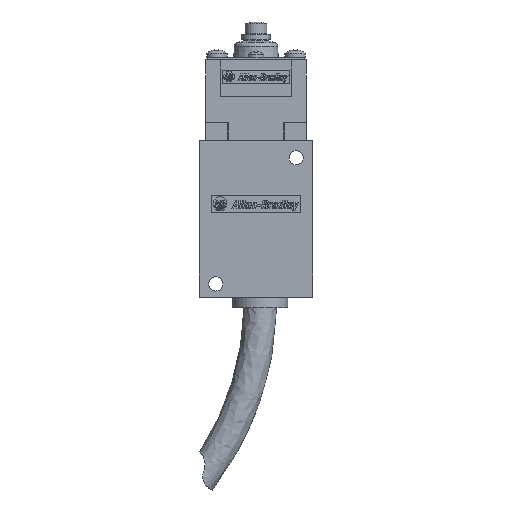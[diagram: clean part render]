
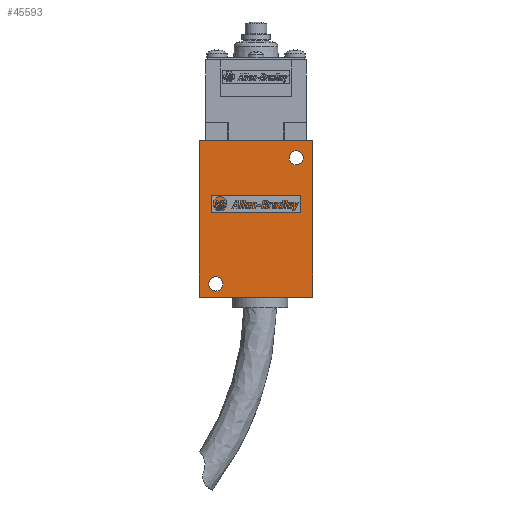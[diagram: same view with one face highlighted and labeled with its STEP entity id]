
A CAD part, front view. The second image highlights one B-rep face of the part: STEP entity #45593.
In plain terms, the highlighted planar face has unit normal (0, -1, 0).
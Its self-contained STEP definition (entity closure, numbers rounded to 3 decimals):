
#2262 = DIRECTION ( 'NONE',  ( -1., 0., 0. ) ) ;
#2263 = CARTESIAN_POINT ( 'NONE',  ( 20.638, -19.05, -57.175 ) ) ;
#2264 = LINE ( 'NONE', #2263, #2316 ) ;
#2314 = CARTESIAN_POINT ( 'NONE',  ( -20.637, -19.05, -57.175 ) ) ;
#2315 = CARTESIAN_POINT ( 'NONE',  ( 20.638, -19.05, -57.175 ) ) ;
#2316 = VECTOR ( 'NONE', #2262, 1000. ) ;
#2769 = CARTESIAN_POINT ( 'NONE',  ( 20.638, -19.05, 0. ) ) ;
#2770 = DIRECTION ( 'NONE',  ( 1., 0., 0. ) ) ;
#2771 = VECTOR ( 'NONE', #2770, 1000. ) ;
#2772 = CARTESIAN_POINT ( 'NONE',  ( 20.638, -19.05, 0. ) ) ;
#2773 = LINE ( 'NONE', #2772, #2771 ) ;
#2774 = CARTESIAN_POINT ( 'NONE',  ( -20.637, -19.05, 0. ) ) ;
#2775 = DIRECTION ( 'NONE',  ( 0., 0., 1. ) ) ;
#2776 = VECTOR ( 'NONE', #2775, 1000. ) ;
#2777 = CARTESIAN_POINT ( 'NONE',  ( -20.637, -19.05, 0. ) ) ;
#2778 = LINE ( 'NONE', #2777, #2776 ) ;
#2810 = DIRECTION ( 'NONE',  ( 0., 0., 1. ) ) ;
#2811 = DIRECTION ( 'NONE',  ( 0., 1., 0. ) ) ;
#2812 = CARTESIAN_POINT ( 'NONE',  ( 20.638, -19.05, 0. ) ) ;
#2813 = AXIS2_PLACEMENT_3D ( 'NONE', #2812, #2811, #2810 ) ;
#2814 = PLANE ( 'NONE',  #2813 ) ;
#2830 = FACE_BOUND ( 'NONE', #45641, .T. ) ;
#2831 = FACE_OUTER_BOUND ( 'NONE', #45636, .T. ) ;
#2832 = FACE_BOUND ( 'NONE', #45629, .T. ) ;
#2883 = DIRECTION ( 'NONE',  ( 0., 0., -1. ) ) ;
#2884 = VECTOR ( 'NONE', #2883, 1000. ) ;
#2885 = CARTESIAN_POINT ( 'NONE',  ( 20.638, -19.05, 0. ) ) ;
#2886 = LINE ( 'NONE', #2885, #2884 ) ;
#2915 = DIRECTION ( 'NONE',  ( 0., 0., -1. ) ) ;
#2916 = DIRECTION ( 'NONE',  ( 0., -1., 0. ) ) ;
#2917 = AXIS2_PLACEMENT_3D ( 'NONE', #2924, #2916, #2915 ) ;
#2918 = CIRCLE ( 'NONE', #2917, 2.578 ) ;
#2924 = CARTESIAN_POINT ( 'NONE',  ( -14.681, -19.05, -52.375 ) ) ;
#2981 = CARTESIAN_POINT ( 'NONE',  ( 14.681, -19.05, -6.35 ) ) ;
#3039 = DIRECTION ( 'NONE',  ( 0., 0., -1. ) ) ;
#3040 = DIRECTION ( 'NONE',  ( 0., -1., 0. ) ) ;
#3041 = AXIS2_PLACEMENT_3D ( 'NONE', #2981, #3040, #3039 ) ;
#3042 = CIRCLE ( 'NONE', #3041, 2.578 ) ;
#41952 = CARTESIAN_POINT ( 'NONE',  ( 14.681, -19.05, -3.772 ) ) ;
#41961 = CARTESIAN_POINT ( 'NONE',  ( 14.681, -19.05, -8.928 ) ) ;
#41962 = DIRECTION ( 'NONE',  ( 0., 0., -1. ) ) ;
#41963 = DIRECTION ( 'NONE',  ( 0., -1., 0. ) ) ;
#41964 = CARTESIAN_POINT ( 'NONE',  ( 14.681, -19.05, -6.35 ) ) ;
#41965 = AXIS2_PLACEMENT_3D ( 'NONE', #41964, #41963, #41962 ) ;
#41966 = CIRCLE ( 'NONE', #41965, 2.578 ) ;
#42091 = DIRECTION ( 'NONE',  ( 0., 0., -1. ) ) ;
#42092 = DIRECTION ( 'NONE',  ( 0., -1., 0. ) ) ;
#42093 = CARTESIAN_POINT ( 'NONE',  ( -14.681, -19.05, -52.375 ) ) ;
#42094 = AXIS2_PLACEMENT_3D ( 'NONE', #42093, #42092, #42091 ) ;
#42095 = CIRCLE ( 'NONE', #42094, 2.578 ) ;
#42096 = CARTESIAN_POINT ( 'NONE',  ( -14.681, -19.05, -54.953 ) ) ;
#42171 = CARTESIAN_POINT ( 'NONE',  ( -14.681, -19.05, -49.797 ) ) ;
#44639 = EDGE_CURVE ( 'NONE', #44646, #44640, #41966, .T. ) ;
#44640 = VERTEX_POINT ( 'NONE', #41961 ) ;
#44646 = VERTEX_POINT ( 'NONE', #41952 ) ;
#44675 = VERTEX_POINT ( 'NONE', #42096 ) ;
#44676 = EDGE_CURVE ( 'NONE', #44692, #44675, #42095, .T. ) ;
#44692 = VERTEX_POINT ( 'NONE', #42171 ) ;
#45392 = EDGE_CURVE ( 'NONE', #45393, #45394, #2264, .T. ) ;
#45393 = VERTEX_POINT ( 'NONE', #2315 ) ;
#45394 = VERTEX_POINT ( 'NONE', #2314 ) ;
#45559 = EDGE_CURVE ( 'NONE', #45394, #45560, #2778, .T. ) ;
#45560 = VERTEX_POINT ( 'NONE', #2774 ) ;
#45565 = EDGE_CURVE ( 'NONE', #45560, #45566, #2773, .T. ) ;
#45566 = VERTEX_POINT ( 'NONE', #2769 ) ;
#45593 = ADVANCED_FACE ( 'NONE', ( #2832, #2831, #2830 ), #2814, .F. ) ;
#45605 = EDGE_CURVE ( 'NONE', #45566, #45393, #2886, .T. ) ;
#45613 = EDGE_CURVE ( 'NONE', #44675, #44692, #2918, .T. ) ;
#45629 = EDGE_LOOP ( 'NONE', ( #45645, #45646 ) ) ;
#45634 = ORIENTED_EDGE ( 'NONE', *, *, #45565, .F. ) ;
#45636 = EDGE_LOOP ( 'NONE', ( #45664, #45643, #45634, #45640 ) ) ;
#45640 = ORIENTED_EDGE ( 'NONE', *, *, #45559, .F. ) ;
#45641 = EDGE_LOOP ( 'NONE', ( #45658, #45647 ) ) ;
#45643 = ORIENTED_EDGE ( 'NONE', *, *, #45605, .F. ) ;
#45645 = ORIENTED_EDGE ( 'NONE', *, *, #45613, .F. ) ;
#45646 = ORIENTED_EDGE ( 'NONE', *, *, #44676, .F. ) ;
#45647 = ORIENTED_EDGE ( 'NONE', *, *, #44639, .F. ) ;
#45658 = ORIENTED_EDGE ( 'NONE', *, *, #45661, .F. ) ;
#45661 = EDGE_CURVE ( 'NONE', #44640, #44646, #3042, .T. ) ;
#45664 = ORIENTED_EDGE ( 'NONE', *, *, #45392, .F. ) ;
